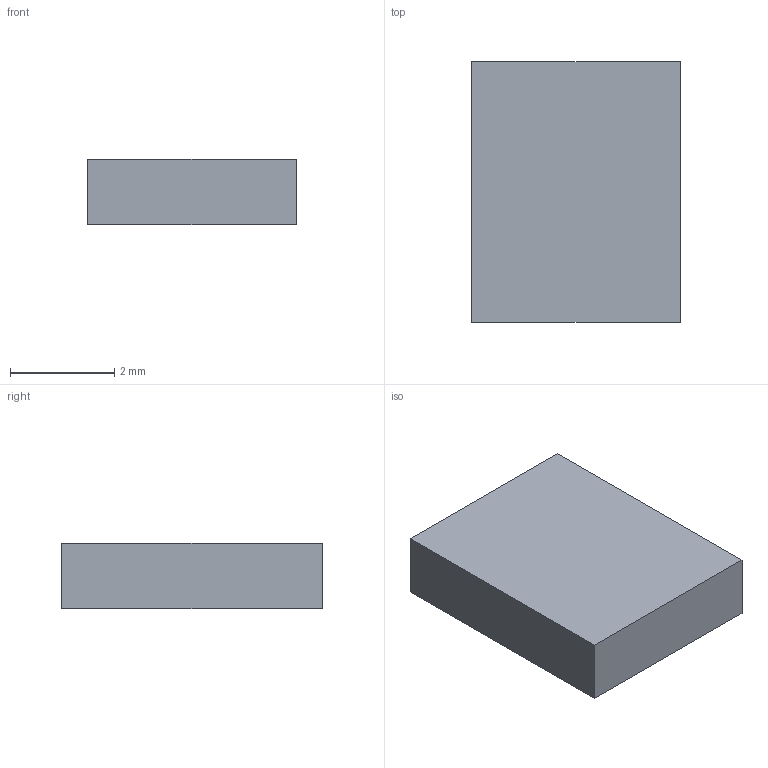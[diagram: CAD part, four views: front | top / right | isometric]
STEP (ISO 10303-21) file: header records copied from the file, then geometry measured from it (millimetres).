
FILE_DESCRIPTION(('MPS package dimensional envelope only'),'2;1');
FILE_NAME('MIE1W0505BGLVH.step','2026-09-30T00:00:00',(''),(''),'','', '');
FILE_SCHEMA(('AUTOMOTIVE_DESIGN'));
Length unit declared in the file: millimetre
Products named in the file (1): MIE1W0505BGLVH
Bounding box: 4 x 5 x 1.25 mm (x, y, z)
Volume: 25 mm3; surface area: 62.5 mm2
Topology: 1 solids, 1 shells, 6 faces, 12 edges, 8 vertices
Faces by surface type: plane 6
Entity records: 62 total; most frequent: DIRECTION 12, CARTESIAN_POINT 8, POLY_LOOP 6, FACE_OUTER_BOUND 6, AXIS2_PLACEMENT_3D 6, PLANE 6, FACE_SURFACE 6, APPLICATION_CONTEXT 1
